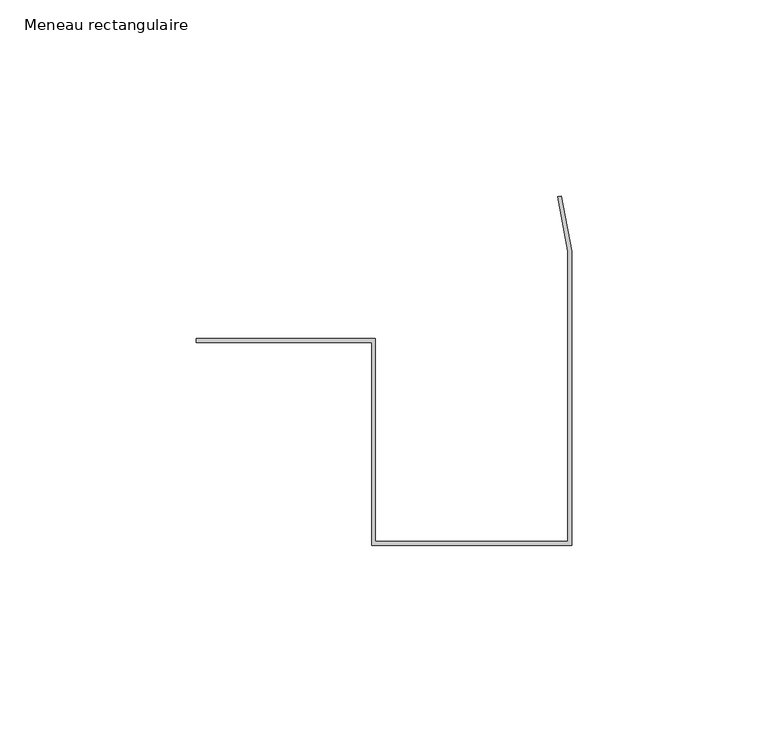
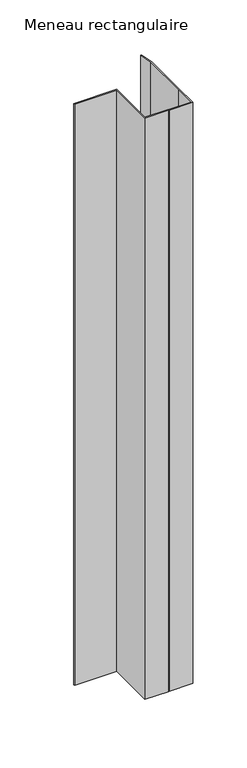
"""IFC4 building model written with IfcOpenShell, lengths in millimetres: member geometry, Meneau rectangulaire : Jonction contre mur Droite H."""

import ifcopenshell
import ifcopenshell.guid

model = None  # the IFC model being written
_history = None  # IfcOwnerHistory: only IFC2X3 demands one
_inside = {}  # id of a spatial element -> (the spatial element, [elements in it])
_under = {}  # id of a project, library or spatial element -> (it, [spatial elements below it])
_declared = {}  # id of a project -> (the project, [libraries it declares])
_typed = {}  # id of a type object -> (the type object, [elements of that type])
_made_of = {}  # id of a material, layer set ... -> (it, [elements and type objects made of it])


def new_model(schema):
    """Start an empty IFC model of exactly this schema.

    Asked for "IFC4X3", IfcOpenShell would pick the latest addendum, in which some entities
    have other attributes; the version numbers below select the first issue.
    IFC2X3 requires an IfcOwnerHistory on every rooted entity: one is made here for all.
    """
    global model, _history
    if schema == "IFC4X3":
        model = ifcopenshell.file(schema_version=(4, 3, 0, 0))
    else:
        model = ifcopenshell.file(schema=schema)
    _inside.clear()
    _under.clear()
    _declared.clear()
    _typed.clear()
    _made_of.clear()
    _history = None
    if model.schema == "IFC2X3":
        org = make("IfcOrganization", Name="unknown")
        user = make(
            "IfcPersonAndOrganization",
            ThePerson=make("IfcPerson", FamilyName="unknown"),
            TheOrganization=org,
        )
        app = make(
            "IfcApplication",
            ApplicationDeveloper=org,
            Version="unknown",
            ApplicationFullName="unknown",
            ApplicationIdentifier="unknown",
        )
        _history = make(
            "IfcOwnerHistory",
            OwningUser=user,
            OwningApplication=app,
            ChangeAction="ADDED",
            CreationDate=0,
        )
    return model


def make(cls, **values):
    """One entity of the class cls with the attributes given. An attribute that is None is left unset."""
    return model.create_entity(
        cls, **{name: value for name, value in values.items() if value is not None}
    )


def rooted(cls, **values):
    """An entity with a GlobalId (a new one), such as an element, a storey or a relation."""
    return make(cls, GlobalId=ifcopenshell.guid.new(), OwnerHistory=_history, **values)


def si_unit(unit_type, name, prefix=None):
    """IfcSIUnit, for example si_unit("LENGTHUNIT", "METRE", prefix="MILLI")."""
    return make("IfcSIUnit", UnitType=unit_type, Prefix=prefix, Name=name)


def assignment(units):
    """IfcUnitAssignment: the units of a project."""
    return None if units is None else make("IfcUnitAssignment", Units=units)


def point(xyz):
    """IfcCartesianPoint."""
    return None if xyz is None else make("IfcCartesianPoint", Coordinates=xyz)


def direction(xyz):
    """IfcDirection."""
    return None if xyz is None else make("IfcDirection", DirectionRatios=xyz)


def frame(location, z_axis=None, x_axis=None):
    """IfcAxis2Placement3D, a coordinate frame: its origin and axes. An axis left out is left unset."""
    return make(
        "IfcAxis2Placement3D",
        Location=point(location),
        Axis=direction(z_axis),
        RefDirection=direction(x_axis),
    )


def origin():
    """The frame at (0, 0, 0) with its axes left unset."""
    return frame((0.0, 0.0, 0.0))


def place(relative_to, where):
    """IfcLocalPlacement: puts the frame where relative to a parent placement (None: the world)."""
    return make(
        "IfcLocalPlacement", PlacementRelTo=relative_to, RelativePlacement=where
    )


def context(
    kind, dimensions, precision=None, world=None, true_north=None, identifier=None
):
    """IfcGeometricRepresentationContext, for example the 3D "Model" context."""
    return make(
        "IfcGeometricRepresentationContext",
        ContextIdentifier=identifier,
        ContextType=kind,
        CoordinateSpaceDimension=dimensions,
        Precision=precision,
        WorldCoordinateSystem=world,
        TrueNorth=true_north,
    )


def project(units=None, contexts=None):
    """IfcProject with its units and contexts."""
    return rooted(
        "IfcProject",
        Name="project",
        RepresentationContexts=contexts,
        UnitsInContext=assignment(units),
    )


def spatial(cls, under=None, at=None, **own):
    """A site, building, storey or space (cls), placed at a placement, below another one or the project."""
    s = rooted(cls, ObjectPlacement=at, **own)
    if under is not None:
        _under.setdefault(under.id(), (under, []))[1].append(s)
    return s


def polyline(points):
    """IfcPolyline through the points."""
    return make("IfcPolyline", Points=[point(p) for p in points])


def outline(outer, holes=None, kind="AREA"):
    """IfcArbitraryClosedProfileDef: a profile drawn as a closed curve; with holes, ...WithVoids."""
    if holes is None:
        return make("IfcArbitraryClosedProfileDef", ProfileType=kind, OuterCurve=outer)
    return make(
        "IfcArbitraryProfileDefWithVoids",
        ProfileType=kind,
        OuterCurve=outer,
        InnerCurves=holes,
    )


def extrude(swept, where, along, depth):
    """IfcExtrudedAreaSolid: the profile swept, set in the frame where, extruded along a direction by depth."""
    return make(
        "IfcExtrudedAreaSolid",
        SweptArea=swept,
        Position=where,
        ExtrudedDirection=direction(along),
        Depth=depth,
    )


def shape(context_of_items, identifier, shape_type, items):
    """IfcShapeRepresentation: the items that make up one representation, for example the "Body"."""
    return make(
        "IfcShapeRepresentation",
        ContextOfItems=context_of_items,
        RepresentationIdentifier=identifier,
        RepresentationType=shape_type,
        Items=items,
    )


def source(mapping_origin, context_of_items, identifier, shape_type, items):
    """IfcRepresentationMap: a shape defined once, which mapped items show again and again."""
    return make(
        "IfcRepresentationMap",
        MappingOrigin=mapping_origin,
        MappedRepresentation=shape(context_of_items, identifier, shape_type, items),
    )


def transform(
    local_origin,
    x_axis=None,
    y_axis=None,
    z_axis=None,
    scale=None,
    scale2=None,
    scale3=None,
    uniform=True,
):
    """IfcCartesianTransformationOperator3D, or its non-uniform kind. x_axis, y_axis, z_axis: its Axis1, 2, 3."""
    if uniform:
        return make(
            "IfcCartesianTransformationOperator3D",
            Axis1=direction(x_axis),
            Axis2=direction(y_axis),
            LocalOrigin=point(local_origin),
            Scale=scale,
            Axis3=direction(z_axis),
        )
    return make(
        "IfcCartesianTransformationOperator3DnonUniform",
        Axis1=direction(x_axis),
        Axis2=direction(y_axis),
        LocalOrigin=point(local_origin),
        Scale=scale,
        Axis3=direction(z_axis),
        Scale2=scale2,
        Scale3=scale3,
    )


def mapped(mapping_source, mapping_target):
    """IfcMappedItem: shows the shape of a source again, moved by a transform."""
    return make(
        "IfcMappedItem", MappingSource=mapping_source, MappingTarget=mapping_target
    )


def made_of(thing, what):
    """Note that an element or type object is made of a material, layer set ...; save() writes the relation."""
    if what is not None:
        _made_of.setdefault(what.id(), (what, []))[1].append(thing)
    return thing


def element(
    cls,
    number,
    at=None,
    inside=None,
    cuts=None,
    type_object=None,
    material=None,
    context=None,
    identifier="Body",
    shape_type=None,
    held_by="IfcProductDefinitionShape",
    body=None,
    shapes=None,
    **own,
):
    """One element of the class cls, such as IfcWall. Its Tag is "e" and its number.

    at: its placement. inside: the storey or other place that contains it. cuts: it is an
    opening in that element (IfcRelVoidsElement). A single representation is given by context,
    identifier, shape_type and body (its items); several are given by shapes. held_by: the class
    of the entity that holds the representations. save() writes the other relations.
    """
    e = rooted(cls, Tag="e%d" % number, ObjectPlacement=at, **own)
    if body is not None:
        shapes = [shape(context, identifier, shape_type, body)]
    if shapes is not None:
        e.Representation = make(held_by, Representations=shapes)
    if inside is not None:
        _inside.setdefault(inside.id(), (inside, []))[1].append(e)
    if cuts is not None:
        rooted(
            "IfcRelVoidsElement", RelatingBuildingElement=cuts, RelatedOpeningElement=e
        )
    if type_object is not None:
        _typed.setdefault(type_object.id(), (type_object, []))[1].append(e)
    return made_of(e, material)


def aggregate(whole, parts):
    """IfcRelAggregates: a whole, such as a stair, and the parts it consists of."""
    return rooted("IfcRelAggregates", RelatingObject=whole, RelatedObjects=parts)


def save(model, path):
    """Write the relations noted so far, then the file.

    IfcRelAggregates (storeys below a building ...), IfcRelContainedInSpatialStructure (elements
    in a storey), IfcRelDefinesByType, IfcRelAssociatesMaterial and IfcRelDeclares: one each for
    every whole, place, type object, material and project.
    """
    for whole, parts in _under.values():
        aggregate(whole, parts)
    for where, things in _inside.values():
        rooted(
            "IfcRelContainedInSpatialStructure",
            RelatedElements=things,
            RelatingStructure=where,
        )
    for kind, things in _typed.values():
        rooted("IfcRelDefinesByType", RelatedObjects=things, RelatingType=kind)
    for what, things in _made_of.values():
        rooted("IfcRelAssociatesMaterial", RelatedObjects=things, RelatingMaterial=what)
    for by, libraries in _declared.values():
        rooted("IfcRelDeclares", RelatingContext=by, RelatedDefinitions=libraries)
    model.write(path)


def meneau_rectangulaire_1c964cb5(model_context):
    return source(origin(), model_context, "Body", "SweptSolid", [
        extrude(outline(polyline([(-1.0, 26.3798616), (-3.6043568, 40.2461331), (-2.6384309, 40.4275528), (0.0, 26.3798616), (0.0, -23.6201384), (0.0, -48.6201384), (-25.0, -48.6201384), (-26.0, -48.6201384), (-51.0, -48.6201384), (-51.0, 3.1), (-95.6686418, 3.1), (-95.6686418, 4.1), (-50.0, 4.1), (-50.0, -47.6201384), (-26.0, -47.6201384), (-25.0, -47.6201384), (-1.0, -47.6201384), (-1.0, -23.6201384), (-1.0, 26.3798616)])), frame((0.0, 0.0, -654.1451617), z_axis=(0.0, 0.0, 1.0), x_axis=(1.0, 0.0, 0.0)), (0.0, 0.0, 1.0), 654.1451617),
    ])


if __name__ == "__main__":
    model = new_model("IFC4")
    model_context = context("Model", 3, world=origin())
    ifc_project = project(units=[si_unit("LENGTHUNIT", "METRE", prefix="MILLI")], contexts=[model_context])
    site = spatial("IfcSite", under=ifc_project)
    building = spatial("IfcBuilding", under=site)
    placement = place(None, origin())
    meneau_rectangulaire_shape = meneau_rectangulaire_1c964cb5(model_context)
    element("IfcMember", 1, ObjectType="Meneau rectangulaire : Jonction contre mur Droite H", at=placement, inside=building, context=model_context, shape_type="MappedRepresentation", body=[
        mapped(meneau_rectangulaire_shape, transform((0.0, 0.0, 0.0), x_axis=(1.0, 0.0, 0.0), y_axis=(0.0, 1.0, 0.0), z_axis=(0.0, 0.0, 1.0))),
    ])
    save(model, "model.ifc")
